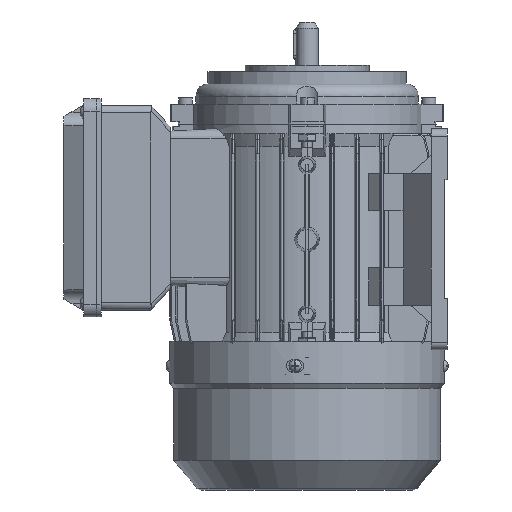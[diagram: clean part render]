
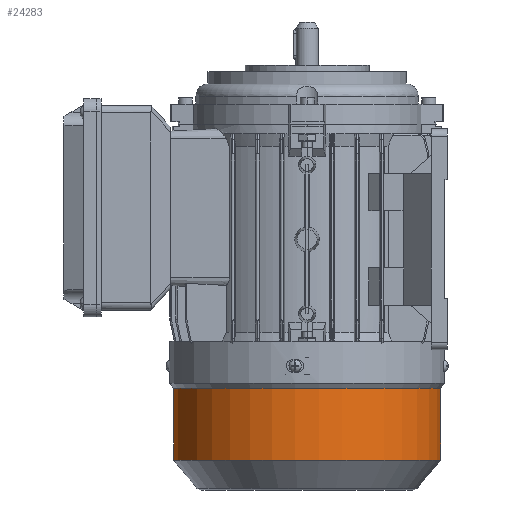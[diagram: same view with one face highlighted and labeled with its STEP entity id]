
A CAD part, left-side view. The second image highlights one B-rep face of the part: STEP entity #24283.
In plain terms, the highlighted cylindrical face has radius 54 mm (diameter 108 mm), a partial arc.
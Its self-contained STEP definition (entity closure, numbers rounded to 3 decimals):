
#13596 = CYLINDRICAL_SURFACE ( 'NONE', #14365, 54. ) ;
#13598 = FACE_OUTER_BOUND ( 'NONE', #41336, .T. ) ;
#14365 = AXIS2_PLACEMENT_3D ( 'NONE', #31726, #31724, #31722 ) ;
#15475 = EDGE_CURVE ( 'NONE', #41711, #56097, #67244, .T. ) ;
#15476 = EDGE_CURVE ( 'NONE', #42294, #41873, #67245, .T. ) ;
#24283 = ADVANCED_FACE ( 'NONE', ( #13598 ), #13596, .T. ) ;
#28885 = CARTESIAN_POINT ( 'NONE',  ( 0., 6.828, 0. ) ) ;
#28886 = DIRECTION ( 'NONE',  ( 0., 1., 0. ) ) ;
#28887 = DIRECTION ( 'NONE',  ( 0., 0., 1. ) ) ;
#28888 = CARTESIAN_POINT ( 'NONE',  ( 0., -22.172, 0. ) ) ;
#28889 = DIRECTION ( 'NONE',  ( 0., 1., 0. ) ) ;
#28890 = DIRECTION ( 'NONE',  ( 0., 0., 1. ) ) ;
#31722 = DIRECTION ( 'NONE',  ( 0., 0., 1. ) ) ;
#31724 = DIRECTION ( 'NONE',  ( 0., 1., 0. ) ) ;
#31726 = CARTESIAN_POINT ( 'NONE',  ( 0., 66., 0. ) ) ;
#32875 = EDGE_CURVE ( 'NONE', #42294, #41711, #49725, .T. ) ;
#32879 = EDGE_CURVE ( 'NONE', #41873, #56097, #49722, .T. ) ;
#38759 = AXIS2_PLACEMENT_3D ( 'NONE', #28885, #28886, #28887 ) ;
#38760 = AXIS2_PLACEMENT_3D ( 'NONE', #28888, #28889, #28890 ) ;
#39986 = ORIENTED_EDGE ( 'NONE', *, *, #32875, .F. ) ;
#39987 = ORIENTED_EDGE ( 'NONE', *, *, #15476, .T. ) ;
#39988 = ORIENTED_EDGE ( 'NONE', *, *, #32879, .T. ) ;
#39989 = ORIENTED_EDGE ( 'NONE', *, *, #15475, .F. ) ;
#41336 = EDGE_LOOP ( 'NONE', ( #39986, #39987, #39988, #39989 ) ) ;
#41711 = VERTEX_POINT ( 'NONE', #60442 ) ;
#41873 = VERTEX_POINT ( 'NONE', #60611 ) ;
#42294 = VERTEX_POINT ( 'NONE', #61032 ) ;
#48741 = DIRECTION ( 'NONE',  ( 0., 1., 0. ) ) ;
#48755 = CARTESIAN_POINT ( 'NONE',  ( 0., 66., -54. ) ) ;
#48758 = DIRECTION ( 'NONE',  ( 0., 1., 0. ) ) ;
#48763 = CARTESIAN_POINT ( 'NONE',  ( 0., 66., 54. ) ) ;
#49722 = LINE ( 'NONE', #48763, #49731 ) ;
#49725 = LINE ( 'NONE', #48755, #49728 ) ;
#49728 = VECTOR ( 'NONE', #48758, 1000. ) ;
#49731 = VECTOR ( 'NONE', #48741, 1000. ) ;
#56097 = VERTEX_POINT ( 'NONE', #61770 ) ;
#60442 = CARTESIAN_POINT ( 'NONE',  ( 0., 6.828, -54. ) ) ;
#60611 = CARTESIAN_POINT ( 'NONE',  ( 0., -22.172, 54. ) ) ;
#61032 = CARTESIAN_POINT ( 'NONE',  ( 0., -22.172, -54. ) ) ;
#61770 = CARTESIAN_POINT ( 'NONE',  ( 0., 6.828, 54. ) ) ;
#67244 = CIRCLE ( 'NONE', #38759, 54. ) ;
#67245 = CIRCLE ( 'NONE', #38760, 54. ) ;
